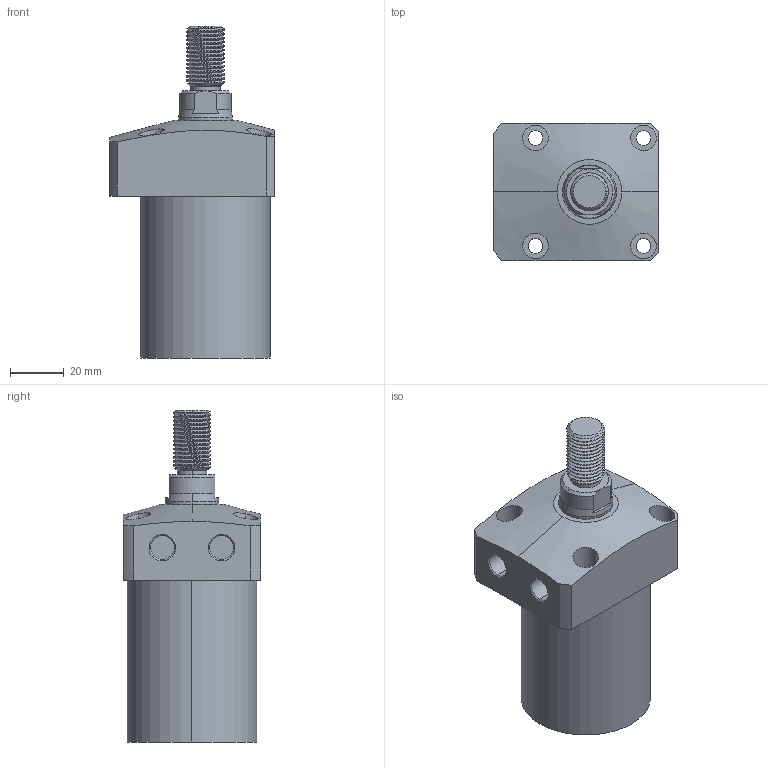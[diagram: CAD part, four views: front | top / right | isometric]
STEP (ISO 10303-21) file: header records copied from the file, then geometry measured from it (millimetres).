
FILE_DESCRIPTION (( 'STEP AP203' ), '1' );
FILE_NAME ('CLL-048CT-050.STEP', '2020-01-10T01:14:14', ( '' ), ( '' ), 'SwSTEP 2.0', 'SolidWorks 2015', '' );
FILE_SCHEMA (( 'CONFIG_CONTROL_DESIGN' ));
Length unit declared in the file: millimetre
Products named in the file (1): CLL-048CT-050
Bounding box: 61 x 51 x 123 mm (x, y, z)
Volume: 187590.1 mm3; surface area: 25027 mm2
Topology: 1 solids, 1 shells, 105 faces, 262 edges, 170 vertices
Faces by surface type: cylinder 63, plane 24, cone 16, bspline 2
Entity records: 5140 total; most frequent: CARTESIAN_POINT 2696, ORIENTED_EDGE 524, DIRECTION 464, EDGE_CURVE 262, AXIS2_PLACEMENT_3D 184, VERTEX_POINT 170, EDGE_LOOP 124, FACE_OUTER_BOUND 105
